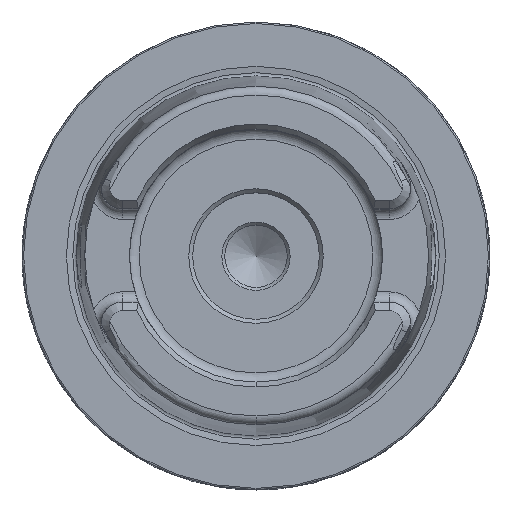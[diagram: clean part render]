
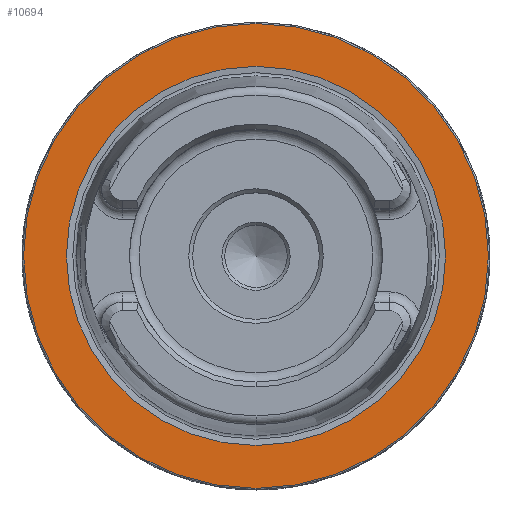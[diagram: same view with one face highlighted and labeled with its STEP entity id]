
A CAD part, top view. The second image highlights one B-rep face of the part: STEP entity #10694.
In plain terms, the highlighted planar face has unit normal (0, 0, 1).
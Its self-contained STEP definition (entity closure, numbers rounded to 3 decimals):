
#10457=CARTESIAN_POINT('',(-0.,-31.27,0.));
#10458=VERTEX_POINT('',#10457);
#10485=CARTESIAN_POINT('',(0.,0.,0.));
#10486=DIRECTION('',(0.,0.,1.));
#10487=DIRECTION('',(1.,0.,-0.));
#10488=AXIS2_PLACEMENT_3D('',#10485,#10486,#10487);
#10489=CIRCLE('',#10488,31.27);
#10490=EDGE_CURVE('',#10458,#10458,#10489,.T.);
#10675=CARTESIAN_POINT('',(0.,0.,0.));
#10676=DIRECTION('',(0.,0.,1.));
#10677=DIRECTION('',(0.,-1.,0.));
#10678=AXIS2_PLACEMENT_3D('',#10675,#10676,#10677);
#10679=PLANE('',#10678);
#10680=CARTESIAN_POINT('',(0.,-25.502,0.));
#10681=VERTEX_POINT('',#10680);
#10682=CARTESIAN_POINT('',(-0.,-0.,0.));
#10683=DIRECTION('',(0.,0.,1.));
#10684=DIRECTION('',(1.,0.,-0.));
#10685=AXIS2_PLACEMENT_3D('',#10682,#10683,#10684);
#10686=CIRCLE('',#10685,25.502);
#10687=EDGE_CURVE('',#10681,#10681,#10686,.T.);
#10688=ORIENTED_EDGE('',*,*,#10687,.F.);
#10689=EDGE_LOOP('',(#10688));
#10690=FACE_BOUND('',#10689,.T.);
#10691=ORIENTED_EDGE('',*,*,#10490,.T.);
#10692=EDGE_LOOP('',(#10691));
#10693=FACE_BOUND('',#10692,.T.);
#10694=ADVANCED_FACE('',(#10690,#10693),#10679,.T.);
